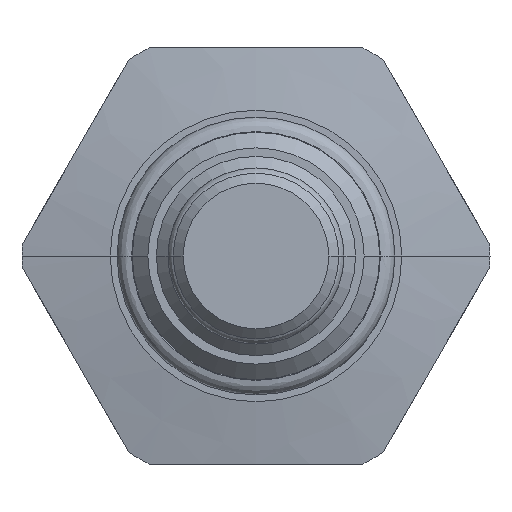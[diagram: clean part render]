
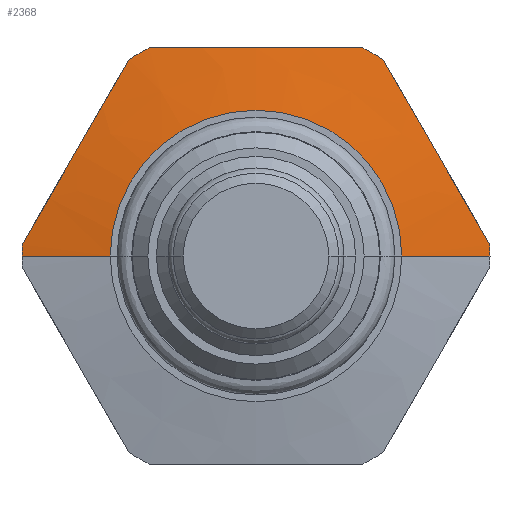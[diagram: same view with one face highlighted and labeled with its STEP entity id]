
A CAD part, front view. The second image highlights one B-rep face of the part: STEP entity #2368.
In plain terms, the highlighted conical face has half-angle 80 degrees and reference radius 14.478 mm.
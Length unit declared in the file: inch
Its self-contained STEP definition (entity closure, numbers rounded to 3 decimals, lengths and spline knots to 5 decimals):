
#458=CARTESIAN_POINT('',(0.,0.0299,0.));
#459=DIRECTION('',(0.,-1.,0.));
#460=DIRECTION('',(1.,0.,0.));
#461=AXIS2_PLACEMENT_3D('',#458,#459,#460);
#463=CARTESIAN_POINT('',(0.,0.07663,0.));
#464=DIRECTION('',(0.,1.,0.));
#465=DIRECTION('',(-1.,0.,0.));
#466=AXIS2_PLACEMENT_3D('',#463,#464,#465);
#468=CARTESIAN_POINT('',(0.,0.07663,0.));
#469=DIRECTION('',(0.,1.,0.));
#470=DIRECTION('',(-0.542,0.,0.84));
#471=AXIS2_PLACEMENT_3D('',#468,#469,#470);
#473=CARTESIAN_POINT('',(0.,0.07663,0.));
#474=DIRECTION('',(0.,1.,0.));
#475=DIRECTION('',(0.457,0.,0.89));
#476=AXIS2_PLACEMENT_3D('',#473,#474,#475);
#478=CARTESIAN_POINT('',(0.,0.07663,0.));
#479=DIRECTION('',(0.,1.,0.));
#480=DIRECTION('',(0.999,0.,0.049));
#481=AXIS2_PLACEMENT_3D('',#478,#479,#480);
#483=DIRECTION('',(-0.985,-0.174,0.));
#484=VECTOR('',#483,0.26909);
#485=CARTESIAN_POINT('',(0.7025,0.07663,0.));
#486=LINE('',#485,#484);
#487=DIRECTION('',(0.985,-0.174,0.));
#488=VECTOR('',#487,0.26909);
#489=CARTESIAN_POINT('',(-0.7025,0.07663,0.));
#490=LINE('',#489,#488);
#615=CARTESIAN_POINT('',(0.38089,0.07663,
0.59028));
#616=CARTESIAN_POINT('',(0.38813,0.07546,
0.57774));
#617=CARTESIAN_POINT('',(0.40254,0.07327,
0.55278));
#618=CARTESIAN_POINT('',(0.42392,0.07041,
0.51575));
#619=CARTESIAN_POINT('',(0.44519,0.06798,
0.47891));
#620=CARTESIAN_POINT('',(0.46644,0.066,
0.44211));
#621=CARTESIAN_POINT('',(0.48775,0.06449,
0.4052));
#622=CARTESIAN_POINT('',(0.50912,0.06346,
0.36819));
#623=CARTESIAN_POINT('',(0.53054,0.06294,
0.33107));
#624=CARTESIAN_POINT('',(0.55199,0.06294,
0.29393));
#625=CARTESIAN_POINT('',(0.57342,0.06346,
0.25681));
#626=CARTESIAN_POINT('',(0.59479,0.06449,
0.2198));
#627=CARTESIAN_POINT('',(0.61609,0.066,
0.18289));
#628=CARTESIAN_POINT('',(0.63734,0.06798,
0.14609));
#629=CARTESIAN_POINT('',(0.65861,0.07041,
0.10925));
#630=CARTESIAN_POINT('',(0.67999,0.07327,
0.07222));
#631=CARTESIAN_POINT('',(0.6944,0.07546,
0.04726));
#632=CARTESIAN_POINT('',(0.70164,0.07663,
0.03472));
#656=CARTESIAN_POINT('',(-0.32075,0.07663,0.625));
#657=CARTESIAN_POINT('',(-0.30627,0.07546,0.625));
#658=CARTESIAN_POINT('',(-0.27745,0.07327,0.625));
#659=CARTESIAN_POINT('',(-0.2347,0.07041,0.625));
#660=CARTESIAN_POINT('',(-0.19215,0.06798,0.625));
#661=CARTESIAN_POINT('',(-0.14966,0.066,0.625));
#662=CARTESIAN_POINT('',(-0.10704,0.06449,0.625));
#663=CARTESIAN_POINT('',(-0.0643,0.06346,0.625));
#664=CARTESIAN_POINT('',(-0.02144,0.06294,0.625));
#665=CARTESIAN_POINT('',(0.02144,0.06294,0.625));
#666=CARTESIAN_POINT('',(0.0643,0.06346,0.625));
#667=CARTESIAN_POINT('',(0.10704,0.06449,0.625));
#668=CARTESIAN_POINT('',(0.14966,0.066,0.625));
#669=CARTESIAN_POINT('',(0.19215,0.06798,0.625));
#670=CARTESIAN_POINT('',(0.2347,0.07041,0.625));
#671=CARTESIAN_POINT('',(0.27745,0.07327,0.625));
#672=CARTESIAN_POINT('',(0.30627,0.07546,0.625));
#673=CARTESIAN_POINT('',(0.32075,0.07663,0.625));
#697=CARTESIAN_POINT('',(-0.70164,0.07663,
0.03472));
#698=CARTESIAN_POINT('',(-0.6944,0.07546,
0.04726));
#699=CARTESIAN_POINT('',(-0.67999,0.07327,
0.07222));
#700=CARTESIAN_POINT('',(-0.65861,0.07041,
0.10925));
#701=CARTESIAN_POINT('',(-0.63734,0.06798,
0.14609));
#702=CARTESIAN_POINT('',(-0.61609,0.066,
0.18289));
#703=CARTESIAN_POINT('',(-0.59479,0.06449,
0.2198));
#704=CARTESIAN_POINT('',(-0.57342,0.06346,
0.25681));
#705=CARTESIAN_POINT('',(-0.55199,0.06294,
0.29393));
#706=CARTESIAN_POINT('',(-0.53054,0.06294,
0.33107));
#707=CARTESIAN_POINT('',(-0.50912,0.06346,
0.36819));
#708=CARTESIAN_POINT('',(-0.48775,0.06449,
0.4052));
#709=CARTESIAN_POINT('',(-0.46644,0.066,
0.44211));
#710=CARTESIAN_POINT('',(-0.44519,0.06798,
0.47891));
#711=CARTESIAN_POINT('',(-0.42392,0.07041,
0.51575));
#712=CARTESIAN_POINT('',(-0.40254,0.07327,
0.55278));
#713=CARTESIAN_POINT('',(-0.38813,0.07546,
0.57774));
#714=CARTESIAN_POINT('',(-0.38089,0.07663,
0.59028));
#1335=CARTESIAN_POINT('',(0.4375,0.0299,0.));
#1337=VERTEX_POINT('',#1335);
#1339=CARTESIAN_POINT('',(-0.4375,0.0299,0.));
#1341=VERTEX_POINT('',#1339);
#1396=CARTESIAN_POINT('',(-0.7025,0.07663,0.));
#1398=VERTEX_POINT('',#1396);
#1399=CARTESIAN_POINT('',(0.7025,0.07663,0.));
#1401=VERTEX_POINT('',#1399);
#1407=CARTESIAN_POINT('',(-0.70164,0.07663,
0.03472));
#1408=VERTEX_POINT('',#1407);
#1409=CARTESIAN_POINT('',(-0.38089,0.07663,
0.59028));
#1410=CARTESIAN_POINT('',(-0.32075,0.07663,0.625));
#1411=VERTEX_POINT('',#1409);
#1412=VERTEX_POINT('',#1410);
#1413=CARTESIAN_POINT('',(0.32075,0.07663,0.625));
#1414=CARTESIAN_POINT('',(0.38089,0.07663,
0.59028));
#1415=VERTEX_POINT('',#1413);
#1416=VERTEX_POINT('',#1414);
#1417=CARTESIAN_POINT('',(0.70164,0.07663,
0.03472));
#1418=VERTEX_POINT('',#1417);
#2342=CARTESIAN_POINT('',(0.,0.05327,0.));
#2343=DIRECTION('',(0.,1.,0.));
#2344=DIRECTION('',(1.,0.,0.));
#2345=AXIS2_PLACEMENT_3D('',#2342,#2343,#2344);
#2346=CONICAL_SURFACE('',#2345,0.57,80.);
#2348=ORIENTED_EDGE('',*,*,#2347,.T.);
#2350=ORIENTED_EDGE('',*,*,#2349,.T.);
#2352=ORIENTED_EDGE('',*,*,#2351,.T.);
#2354=ORIENTED_EDGE('',*,*,#2353,.T.);
#2356=ORIENTED_EDGE('',*,*,#2355,.T.);
#2358=ORIENTED_EDGE('',*,*,#2357,.T.);
#2360=ORIENTED_EDGE('',*,*,#2359,.T.);
#2362=ORIENTED_EDGE('',*,*,#2361,.T.);
#2363=ORIENTED_EDGE('',*,*,#2337,.T.);
#2365=ORIENTED_EDGE('',*,*,#2364,.F.);
#2366=EDGE_LOOP('',(#2348,#2350,#2352,#2354,#2356,#2358,#2360,#2362,#2363,
#2365));
#2367=FACE_OUTER_BOUND('',#2366,.F.);
#2368=ADVANCED_FACE('',(#2367),#2346,.T.);
#462=CIRCLE('',#461,0.4375);
#467=CIRCLE('',#466,0.7025);
#472=CIRCLE('',#471,0.7025);
#477=CIRCLE('',#476,0.7025);
#482=CIRCLE('',#481,0.7025);
#633=B_SPLINE_CURVE_WITH_KNOTS('',3,(#615,#616,#617,#618,#619,#620,#621,#622,
#623,#624,#625,#626,#627,#628,#629,#630,#631,#632),.UNSPECIFIED.,.F.,.F.,(4,1,1,
1,1,1,1,1,1,1,1,1,1,1,1,4),(0.,0.06667,0.13333,0.2,
0.26667,0.33333,0.4,0.46667,0.53333,
0.6,0.66667,0.73333,0.8,0.86667,
0.93333,1.),.UNSPECIFIED.);
#674=B_SPLINE_CURVE_WITH_KNOTS('',3,(#656,#657,#658,#659,#660,#661,#662,#663,
#664,#665,#666,#667,#668,#669,#670,#671,#672,#673),.UNSPECIFIED.,.F.,.F.,(4,1,1,
1,1,1,1,1,1,1,1,1,1,1,1,4),(0.,0.06667,0.13333,0.2,
0.26667,0.33333,0.4,0.46667,0.53333,
0.6,0.66667,0.73333,0.8,0.86667,
0.93333,1.),.UNSPECIFIED.);
#715=B_SPLINE_CURVE_WITH_KNOTS('',3,(#697,#698,#699,#700,#701,#702,#703,#704,
#705,#706,#707,#708,#709,#710,#711,#712,#713,#714),.UNSPECIFIED.,.F.,.F.,(4,1,1,
1,1,1,1,1,1,1,1,1,1,1,1,4),(0.,0.06667,0.13333,0.2,
0.26667,0.33333,0.4,0.46667,0.53333,
0.6,0.66667,0.73333,0.8,0.86667,
0.93333,1.),.UNSPECIFIED.);
#2337=EDGE_CURVE('',#1337,#1341,#462,.T.);
#2347=EDGE_CURVE('',#1398,#1408,#467,.T.);
#2349=EDGE_CURVE('',#1408,#1411,#715,.T.);
#2351=EDGE_CURVE('',#1411,#1412,#472,.T.);
#2353=EDGE_CURVE('',#1412,#1415,#674,.T.);
#2355=EDGE_CURVE('',#1415,#1416,#477,.T.);
#2357=EDGE_CURVE('',#1416,#1418,#633,.T.);
#2359=EDGE_CURVE('',#1418,#1401,#482,.T.);
#2361=EDGE_CURVE('',#1401,#1337,#486,.T.);
#2364=EDGE_CURVE('',#1398,#1341,#490,.T.);
